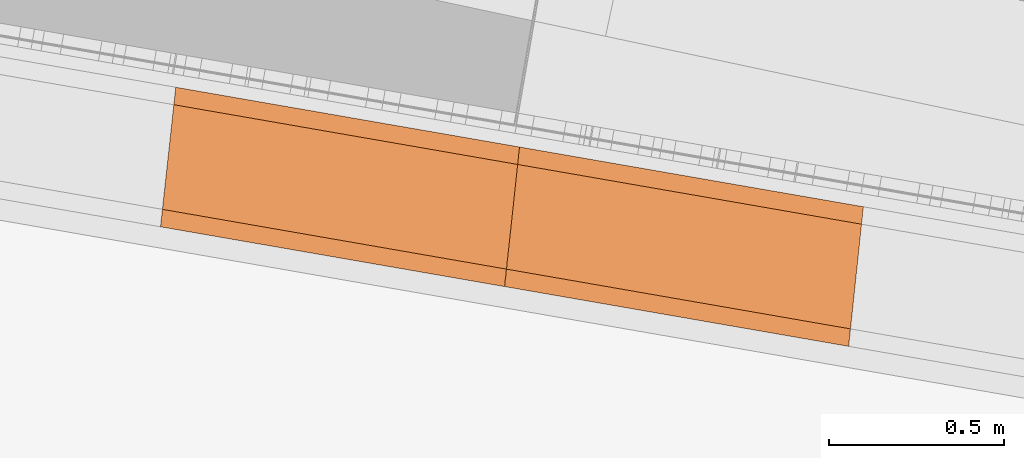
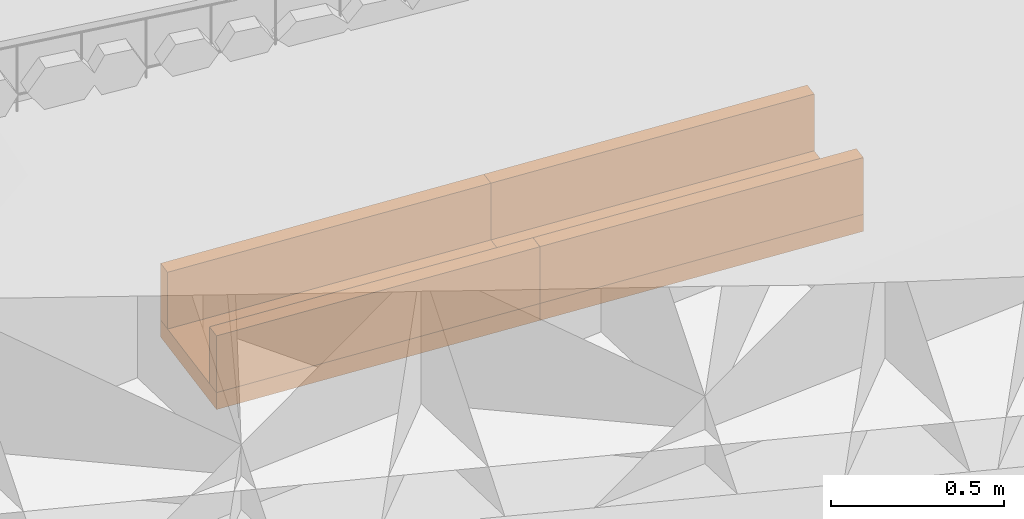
# Not in any storey, part 40 of 46: 6 proxies.
"""IFC4 model written with IfcOpenShell, lengths in metres."""

import ifcopenshell
import ifcopenshell.guid

model = None  # the IFC model being written
_history = None  # IfcOwnerHistory: only IFC2X3 demands one
_inside = {}  # id of a spatial element -> (the spatial element, [elements in it])
_under = {}  # id of a project, library or spatial element -> (it, [spatial elements below it])
_declared = {}  # id of a project -> (the project, [libraries it declares])
_typed = {}  # id of a type object -> (the type object, [elements of that type])
_made_of = {}  # id of a material, layer set ... -> (it, [elements and type objects made of it])


def new_model(schema):
    """Start an empty IFC model of exactly this schema.

    Asked for "IFC4X3", IfcOpenShell would pick the latest addendum, in which some entities
    have other attributes; the version numbers below select the first issue.
    IFC2X3 requires an IfcOwnerHistory on every rooted entity: one is made here for all.
    """
    global model, _history
    if schema == "IFC4X3":
        model = ifcopenshell.file(schema_version=(4, 3, 0, 0))
    else:
        model = ifcopenshell.file(schema=schema)
    _inside.clear()
    _under.clear()
    _declared.clear()
    _typed.clear()
    _made_of.clear()
    _history = None
    if model.schema == "IFC2X3":
        org = make("IfcOrganization", Name="unknown")
        user = make(
            "IfcPersonAndOrganization",
            ThePerson=make("IfcPerson", FamilyName="unknown"),
            TheOrganization=org,
        )
        app = make(
            "IfcApplication",
            ApplicationDeveloper=org,
            Version="unknown",
            ApplicationFullName="unknown",
            ApplicationIdentifier="unknown",
        )
        _history = make(
            "IfcOwnerHistory",
            OwningUser=user,
            OwningApplication=app,
            ChangeAction="ADDED",
            CreationDate=0,
        )
    return model


def make(cls, **values):
    """One entity of the class cls with the attributes given. An attribute that is None is left unset."""
    return model.create_entity(
        cls, **{name: value for name, value in values.items() if value is not None}
    )


def rooted(cls, **values):
    """An entity with a GlobalId (a new one), such as an element, a storey or a relation."""
    return make(cls, GlobalId=ifcopenshell.guid.new(), OwnerHistory=_history, **values)


def si_unit(unit_type, name, prefix=None):
    """IfcSIUnit, for example si_unit("LENGTHUNIT", "METRE", prefix="MILLI")."""
    return make("IfcSIUnit", UnitType=unit_type, Prefix=prefix, Name=name)


def assignment(units):
    """IfcUnitAssignment: the units of a project."""
    return None if units is None else make("IfcUnitAssignment", Units=units)


def point(xyz):
    """IfcCartesianPoint."""
    return None if xyz is None else make("IfcCartesianPoint", Coordinates=xyz)


def direction(xyz):
    """IfcDirection."""
    return None if xyz is None else make("IfcDirection", DirectionRatios=xyz)


def frame(location, z_axis=None, x_axis=None):
    """IfcAxis2Placement3D, a coordinate frame: its origin and axes. An axis left out is left unset."""
    return make(
        "IfcAxis2Placement3D",
        Location=point(location),
        Axis=direction(z_axis),
        RefDirection=direction(x_axis),
    )


def origin_with_axes():
    """The frame at (0, 0, 0) with the z axis (0, 0, 1) and the x axis (1, 0, 0) written out."""
    return frame((0.0, 0.0, 0.0), z_axis=(0.0, 0.0, 1.0), x_axis=(1.0, 0.0, 0.0))


def place(relative_to, where):
    """IfcLocalPlacement: puts the frame where relative to a parent placement (None: the world)."""
    return make(
        "IfcLocalPlacement", PlacementRelTo=relative_to, RelativePlacement=where
    )


def context(
    kind, dimensions, precision=None, world=None, true_north=None, identifier=None
):
    """IfcGeometricRepresentationContext, for example the 3D "Model" context."""
    return make(
        "IfcGeometricRepresentationContext",
        ContextIdentifier=identifier,
        ContextType=kind,
        CoordinateSpaceDimension=dimensions,
        Precision=precision,
        WorldCoordinateSystem=world,
        TrueNorth=true_north,
    )


def subcontext(parent, identifier, kind, view, scale=None):
    """IfcGeometricRepresentationSubContext, for example "Body" below "Model"."""
    return make(
        "IfcGeometricRepresentationSubContext",
        ContextIdentifier=identifier,
        ContextType=kind,
        ParentContext=parent,
        TargetScale=scale,
        TargetView=view,
    )


def project(units=None, contexts=None):
    """IfcProject with its units and contexts."""
    return rooted(
        "IfcProject",
        Name="project",
        RepresentationContexts=contexts,
        UnitsInContext=assignment(units),
    )


def spatial(cls, under=None, at=None, **own):
    """A site, building, storey or space (cls), placed at a placement, below another one or the project."""
    s = rooted(cls, ObjectPlacement=at, **own)
    if under is not None:
        _under.setdefault(under.id(), (under, []))[1].append(s)
    return s


def point_list(points):
    """IfcCartesianPointList2D or 3D."""
    cls = (
        "IfcCartesianPointList2D" if len(points[0]) == 2 else "IfcCartesianPointList3D"
    )
    return make(cls, CoordList=points)


def polygons(points, faces, closed=None, point_numbers=None):
    """IfcPolygonalFaceSet: a face is its outer loop, then its inner loops; points numbered from 1."""
    made = []
    for loops in faces:
        if len(loops) == 1:
            made.append(make("IfcIndexedPolygonalFace", CoordIndex=loops[0]))
        else:
            made.append(
                make(
                    "IfcIndexedPolygonalFaceWithVoids",
                    CoordIndex=loops[0],
                    InnerCoordIndices=loops[1:],
                )
            )
    return make(
        "IfcPolygonalFaceSet",
        Coordinates=point_list(points),
        Closed=closed,
        Faces=made,
        PnIndex=point_numbers,
    )


def shape(context_of_items, identifier, shape_type, items):
    """IfcShapeRepresentation: the items that make up one representation, for example the "Body"."""
    return make(
        "IfcShapeRepresentation",
        ContextOfItems=context_of_items,
        RepresentationIdentifier=identifier,
        RepresentationType=shape_type,
        Items=items,
    )


def material(Name=None, Category=None):
    """IfcMaterial."""
    return make("IfcMaterial", Name=Name, Category=Category)


def made_of(thing, what):
    """Note that an element or type object is made of a material, layer set ...; save() writes the relation."""
    if what is not None:
        _made_of.setdefault(what.id(), (what, []))[1].append(thing)
    return thing


def element(
    cls,
    number,
    at=None,
    inside=None,
    cuts=None,
    type_object=None,
    material=None,
    context=None,
    identifier="Body",
    shape_type=None,
    held_by="IfcProductDefinitionShape",
    body=None,
    shapes=None,
    **own,
):
    """One element of the class cls, such as IfcWall. Its Tag is "e" and its number.

    at: its placement. inside: the storey or other place that contains it. cuts: it is an
    opening in that element (IfcRelVoidsElement). A single representation is given by context,
    identifier, shape_type and body (its items); several are given by shapes. held_by: the class
    of the entity that holds the representations. save() writes the other relations.
    """
    e = rooted(cls, Tag="e%d" % number, ObjectPlacement=at, **own)
    if body is not None:
        shapes = [shape(context, identifier, shape_type, body)]
    if shapes is not None:
        e.Representation = make(held_by, Representations=shapes)
    if inside is not None:
        _inside.setdefault(inside.id(), (inside, []))[1].append(e)
    if cuts is not None:
        rooted(
            "IfcRelVoidsElement", RelatingBuildingElement=cuts, RelatedOpeningElement=e
        )
    if type_object is not None:
        _typed.setdefault(type_object.id(), (type_object, []))[1].append(e)
    return made_of(e, material)


def aggregate(whole, parts):
    """IfcRelAggregates: a whole, such as a stair, and the parts it consists of."""
    return rooted("IfcRelAggregates", RelatingObject=whole, RelatedObjects=parts)


def save(model, path):
    """Write the relations noted so far, then the file.

    IfcRelAggregates (storeys below a building ...), IfcRelContainedInSpatialStructure (elements
    in a storey), IfcRelDefinesByType, IfcRelAssociatesMaterial and IfcRelDeclares: one each for
    every whole, place, type object, material and project.
    """
    for whole, parts in _under.values():
        aggregate(whole, parts)
    for where, things in _inside.values():
        rooted(
            "IfcRelContainedInSpatialStructure",
            RelatedElements=things,
            RelatingStructure=where,
        )
    for kind, things in _typed.values():
        rooted("IfcRelDefinesByType", RelatedObjects=things, RelatingType=kind)
    for what, things in _made_of.values():
        rooted("IfcRelAssociatesMaterial", RelatedObjects=things, RelatingMaterial=what)
    for by, libraries in _declared.values():
        rooted("IfcRelDeclares", RelatingContext=by, RelatedDefinitions=libraries)
    model.write(path)


model = new_model("IFC4")

# Units and contexts
model_context = context("Model", 3, precision=1e-05, world=origin_with_axes(), true_north=direction((0.0, 1.0)))
body_context = subcontext(model_context, "Body", "Model", "MODEL_VIEW")
ifc_project = project(units=[si_unit("VOLUMEUNIT", "CUBIC_METRE"), si_unit("LENGTHUNIT", "METRE"), si_unit("AREAUNIT", "SQUARE_METRE")], contexts=[model_context])

# Site
site_placement = place(None, origin_with_axes())
site = spatial("IfcSite", under=ifc_project, at=site_placement, Name="Lares · Rua das Mercês · artigo 4771")

# Proxies
ifc_material = material(Name="Caleiras · betão", Category="concrete")
proxy_1_placement = place(site_placement, frame((0.0, 0.0, 0.0), z_axis=(0.0, 0.0, 1.0), x_axis=(1.0, -1.03767253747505e-17, 0.0)))
element("IfcBuildingElementProxy", 1, at=proxy_1_placement, inside=site, material=ifc_material, Name="Acesso · canal lateral", ObjectType="Acesso · canal lateral", PredefinedType="USERDEFINED", context=body_context, shape_type="Tessellation", body=[
    polygons([(73.413912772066, 7.33794561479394, 15.1236188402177), (73.4571225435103, 7.73560491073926, 15.1236188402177), (74.4372869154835, 7.56529763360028, 15.198076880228), (74.3940771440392, 7.16763833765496, 15.198076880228), (73.413912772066, 7.33794561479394, 15.1836188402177), (73.4571225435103, 7.73560491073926, 15.1836188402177), (74.4372869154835, 7.56529763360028, 15.258076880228), (74.3940771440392, 7.16763833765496, 15.258076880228)], [[[4, 3, 2, 1]], [[5, 6, 7, 8]], [[1, 2, 6, 5]], [[2, 3, 7, 6]], [[3, 4, 8, 7]], [[4, 1, 5, 8]]]),
])
proxy_2_placement = place(site_placement, frame((0.0, 0.0, 0.0), z_axis=(0.0, 0.0, 1.0), x_axis=(1.0, -1.03767253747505e-17, 0.0)))
element("IfcBuildingElementProxy", 2, at=proxy_2_placement, inside=site, material=ifc_material, Name="Acesso · canal lateral", ObjectType="Acesso · canal lateral", PredefinedType="USERDEFINED", context=body_context, shape_type="Tessellation", body=[
    polygons([(73.413912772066, 7.33794561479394, 15.1836188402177), (73.4193139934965, 7.3876530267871, 15.1836188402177), (74.3994783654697, 7.21734574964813, 15.258076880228), (74.3940771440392, 7.16763833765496, 15.258076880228), (73.413912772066, 7.33794561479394, 15.3836188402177), (73.4193139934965, 7.3876530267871, 15.3836188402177), (74.3994783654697, 7.21734574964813, 15.458076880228), (74.3940771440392, 7.16763833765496, 15.458076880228)], [[[4, 3, 2, 1]], [[5, 6, 7, 8]], [[1, 2, 6, 5]], [[2, 3, 7, 6]], [[3, 4, 8, 7]], [[4, 1, 5, 8]]]),
])
proxy_3_placement = place(site_placement, frame((0.0, 0.0, 0.0), z_axis=(0.0, 0.0, 1.0), x_axis=(1.0, -1.03767253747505e-17, 0.0)))
element("IfcBuildingElementProxy", 3, at=proxy_3_placement, inside=site, material=ifc_material, Name="Acesso · canal lateral", ObjectType="Acesso · canal lateral", PredefinedType="USERDEFINED", context=body_context, shape_type="Tessellation", body=[
    polygons([(73.4517213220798, 7.68589749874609, 15.1836188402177), (73.4571225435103, 7.73560491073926, 15.1836188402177), (74.4372869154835, 7.56529763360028, 15.258076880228), (74.431885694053, 7.51559022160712, 15.258076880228), (73.4517213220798, 7.68589749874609, 15.3836188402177), (73.4571225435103, 7.73560491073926, 15.3836188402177), (74.4372869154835, 7.56529763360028, 15.458076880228), (74.431885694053, 7.51559022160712, 15.458076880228)], [[[4, 3, 2, 1]], [[5, 6, 7, 8]], [[1, 2, 6, 5]], [[2, 3, 7, 6]], [[3, 4, 8, 7]], [[4, 1, 5, 8]]]),
])
proxy_4_placement = place(site_placement, frame((0.0, 0.0, 0.0), z_axis=(0.0, 0.0, 1.0), x_axis=(1.0, -1.03767253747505e-17, 0.0)))
element("IfcBuildingElementProxy", 4, at=proxy_4_placement, inside=site, material=ifc_material, Name="Acesso · canal lateral", ObjectType="Acesso · canal lateral", PredefinedType="USERDEFINED", context=body_context, shape_type="Tessellation", body=[
    polygons([(74.3945170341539, 7.16759103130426, 15.198076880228), (74.4368470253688, 7.56534493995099, 15.198076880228), (75.4169922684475, 7.39503843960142, 15.2725349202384), (75.3746622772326, 6.99728453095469, 15.2725349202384), (74.3945170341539, 7.16759103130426, 15.258076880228), (74.4368470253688, 7.56534493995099, 15.258076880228), (75.4169922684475, 7.39503843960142, 15.3325349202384), (75.3746622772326, 6.99728453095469, 15.3325349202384)], [[[4, 3, 2, 1]], [[5, 6, 7, 8]], [[1, 2, 6, 5]], [[2, 3, 7, 6]], [[3, 4, 8, 7]], [[4, 1, 5, 8]]]),
])
proxy_5_placement = place(site_placement, frame((0.0, 0.0, 0.0), z_axis=(0.0, 0.0, 1.0), x_axis=(1.0, -1.03767253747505e-17, 0.0)))
element("IfcBuildingElementProxy", 5, at=proxy_5_placement, inside=site, material=ifc_material, Name="Acesso · canal lateral", ObjectType="Acesso · canal lateral", PredefinedType="USERDEFINED", context=body_context, shape_type="Tessellation", body=[
    polygons([(74.3945170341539, 7.16759103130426, 15.258076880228), (74.3998082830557, 7.2173102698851, 15.258076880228), (75.3799535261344, 7.04700376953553, 15.3325349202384), (75.3746622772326, 6.99728453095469, 15.3325349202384), (74.3945170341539, 7.16759103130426, 15.458076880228), (74.3998082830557, 7.2173102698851, 15.458076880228), (75.3799535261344, 7.04700376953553, 15.5325349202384), (75.3746622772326, 6.99728453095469, 15.5325349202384)], [[[4, 3, 2, 1]], [[5, 6, 7, 8]], [[1, 2, 6, 5]], [[2, 3, 7, 6]], [[3, 4, 8, 7]], [[4, 1, 5, 8]]]),
])
proxy_6_placement = place(site_placement, frame((0.0, 0.0, 0.0), z_axis=(0.0, 0.0, 1.0), x_axis=(1.0, -1.03767253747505e-17, 0.0)))
element("IfcBuildingElementProxy", 6, at=proxy_6_placement, inside=site, material=ifc_material, Name="Acesso · canal lateral", ObjectType="Acesso · canal lateral", PredefinedType="USERDEFINED", context=body_context, shape_type="Tessellation", body=[
    polygons([(74.4315557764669, 7.51562570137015, 15.258076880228), (74.4368470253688, 7.56534493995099, 15.258076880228), (75.4169922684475, 7.39503843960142, 15.3325349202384), (75.4117010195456, 7.34531920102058, 15.3325349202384), (74.4315557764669, 7.51562570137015, 15.458076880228), (74.4368470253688, 7.56534493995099, 15.458076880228), (75.4169922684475, 7.39503843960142, 15.5325349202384), (75.4117010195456, 7.34531920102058, 15.5325349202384)], [[[4, 3, 2, 1]], [[5, 6, 7, 8]], [[1, 2, 6, 5]], [[2, 3, 7, 6]], [[3, 4, 8, 7]], [[4, 1, 5, 8]]]),
])

save(model, "model.ifc")
